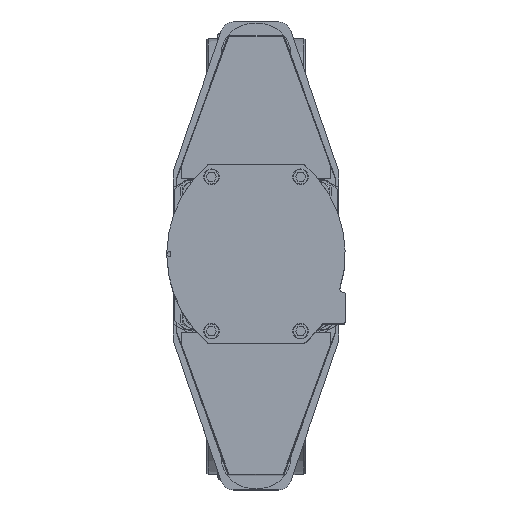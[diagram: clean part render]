
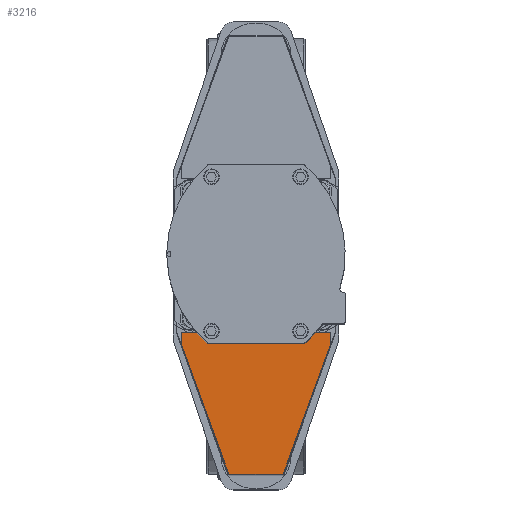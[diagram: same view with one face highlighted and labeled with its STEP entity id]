
A CAD part, top view. The second image highlights one B-rep face of the part: STEP entity #3216.
In plain terms, the highlighted planar face has unit normal (0, 0, 1).
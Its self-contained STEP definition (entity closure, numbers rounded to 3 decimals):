
#3216=ADVANCED_FACE('',(#9672),#9673,.F.);
#9672=FACE_OUTER_BOUND('',#17327,.T.);
#9673=PLANE('',#17328);
#17327=EDGE_LOOP('',(#41676,#41677,#41678,#41679,#41680,#41681));
#17328=AXIS2_PLACEMENT_3D('',#41682,#41683,#41684);
#41676=ORIENTED_EDGE('',*,*,#52525,.T.);
#41677=ORIENTED_EDGE('',*,*,#52531,.F.);
#41678=ORIENTED_EDGE('',*,*,#52550,.F.);
#41679=ORIENTED_EDGE('',*,*,#52548,.T.);
#41680=ORIENTED_EDGE('',*,*,#52536,.T.);
#41681=ORIENTED_EDGE('',*,*,#52545,.F.);
#41682=CARTESIAN_POINT('',(-79.815,-232.393,1356.254));
#41683=DIRECTION('',(0.,0.,-1.));
#41684=DIRECTION('',(0.,-1.,0.));
#52525=EDGE_CURVE('',#66212,#66213,#66214,.T.);
#52531=EDGE_CURVE('',#66222,#66213,#66224,.T.);
#52536=EDGE_CURVE('',#66232,#66233,#66234,.T.);
#52545=EDGE_CURVE('',#66212,#66233,#66247,.T.);
#52548=EDGE_CURVE('',#66250,#66232,#66251,.T.);
#52550=EDGE_CURVE('',#66250,#66222,#66253,.T.);
#66212=VERTEX_POINT('',#89815);
#66213=VERTEX_POINT('',#89816);
#66214=LINE('',#89817,#89818);
#66222=VERTEX_POINT('',#89830);
#66224=LINE('',#89833,#89834);
#66232=VERTEX_POINT('',#89846);
#66233=VERTEX_POINT('',#89847);
#66234=LINE('',#89848,#89849);
#66247=LINE('',#89866,#89867);
#66250=VERTEX_POINT('',#89872);
#66251=LINE('',#89873,#89874);
#66253=LINE('',#89877,#89878);
#89815=CARTESIAN_POINT('',(42.63,-343.893,1356.254));
#89816=CARTESIAN_POINT('',(117.,-139.893,1356.254));
#89817=CARTESIAN_POINT('',(71.981,-263.384,1356.254));
#89818=VECTOR('',#105079,10.);
#89830=CARTESIAN_POINT('',(117.,-120.893,1356.254));
#89833=CARTESIAN_POINT('',(117.,-343.893,1356.254));
#89834=VECTOR('',#105085,10.);
#89846=CARTESIAN_POINT('',(-117.,-139.893,1356.254));
#89847=CARTESIAN_POINT('',(-42.63,-343.893,1356.254));
#89848=CARTESIAN_POINT('',(-81.344,-237.7,1356.254));
#89849=VECTOR('',#105090,10.);
#89866=CARTESIAN_POINT('',(42.63,-343.893,1356.254));
#89867=VECTOR('',#105107,10.);
#89872=CARTESIAN_POINT('',(-117.,-120.893,1356.254));
#89873=CARTESIAN_POINT('',(-117.,-343.893,1356.254));
#89874=VECTOR('',#105110,10.);
#89877=CARTESIAN_POINT('',(117.,-120.893,1356.254));
#89878=VECTOR('',#105112,10.);
#105079=DIRECTION('',(0.343,0.94,0.));
#105085=DIRECTION('',(0.,-1.,0.));
#105090=DIRECTION('',(0.343,-0.94,0.));
#105107=DIRECTION('',(-1.,0.,0.));
#105110=DIRECTION('',(0.,-1.,0.));
#105112=DIRECTION('',(1.,0.,0.));
